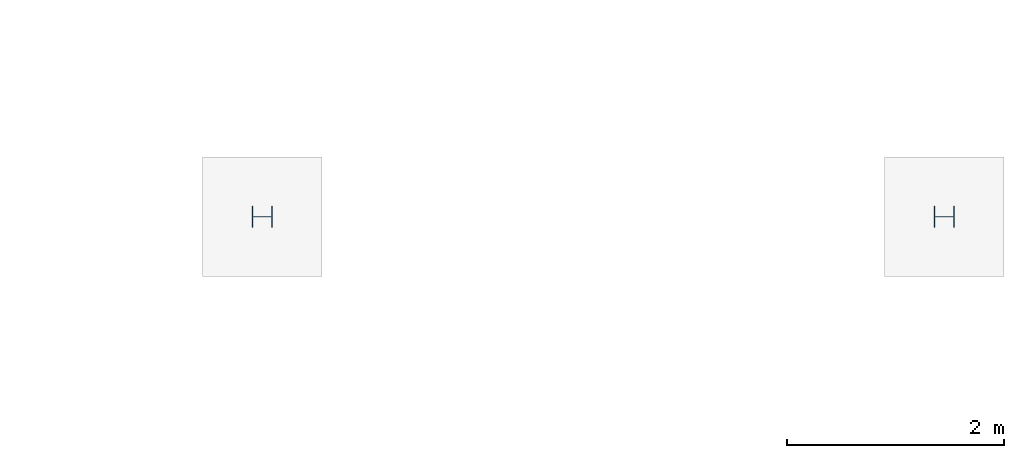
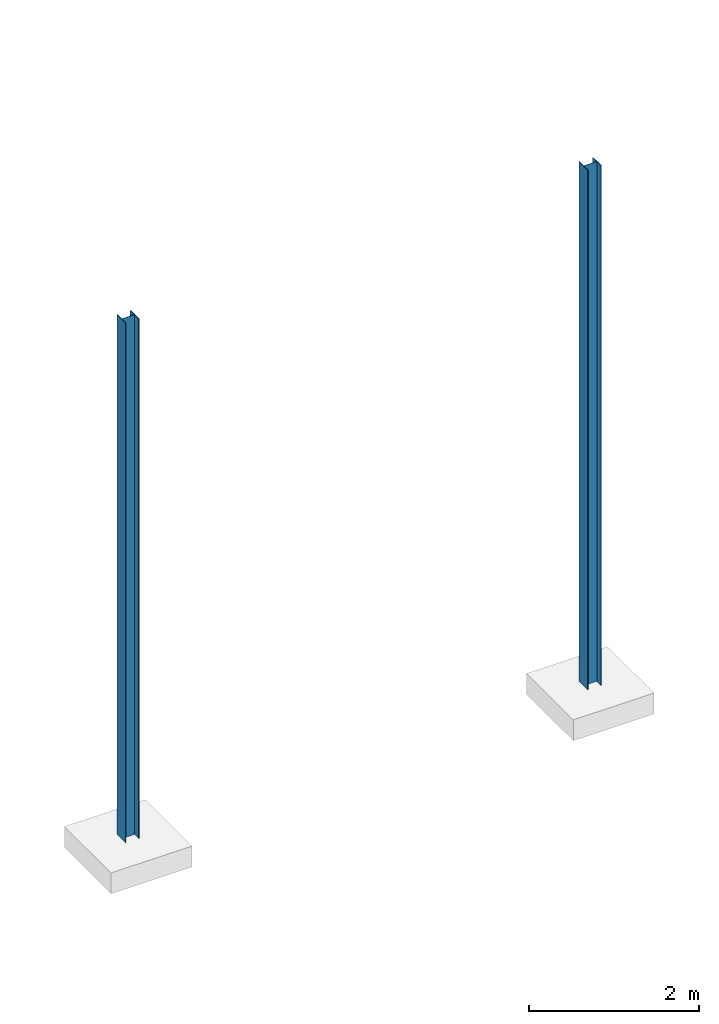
# One storey, part 38 of 59: 2 columns.
"""IFC2X3 building model written with IfcOpenShell, lengths in metres."""

from ifc_helpers import new_model, entity, si_unit, converted_unit, derived_unit, frame, origin, origin_with_axes, place, context, subcontext, project, spatial, polyline, outline, extrude, material, element, save


model = new_model("IFC2X3")

# Units and contexts
model_context = context("Model", 3, precision=1e-05, world=origin())
body_context = subcontext(model_context, "Body", "Model", "MODEL_VIEW")
ifc_project = project(units=[si_unit("LENGTHUNIT", "METRE"), si_unit("AREAUNIT", "SQUARE_METRE"), si_unit("VOLUMEUNIT", "CUBIC_METRE"), si_unit("MASSUNIT", "GRAM", prefix="KILO"), converted_unit("PLANEANGLEUNIT", "DEGREE", entity("IfcPlaneAngleMeasure", 0.0174532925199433), si_unit("PLANEANGLEUNIT", "RADIAN"), dimensions=[0, 0, 0, 0, 0, 0, 0]), derived_unit("THERMALTRANSMITTANCEUNIT", [(si_unit("POWERUNIT", "WATT"), 1), (si_unit("THERMODYNAMICTEMPERATUREUNIT", "KELVIN"), -1), (si_unit("LENGTHUNIT", "METRE"), -2)]), derived_unit("VOLUMETRICFLOWRATEUNIT", [(si_unit("LENGTHUNIT", "METRE"), 3), (converted_unit("TIMEUNIT", "hour", entity("IfcTimeMeasure", 3600.0), si_unit("TIMEUNIT", "SECOND"), dimensions=[0, 0, 1, 0, 0, 0, 0]), -1), (si_unit("LENGTHUNIT", "METRE"), -1)])], contexts=[model_context])

# Site, building, storey
site_placement = place(None, origin())
site = spatial("IfcSite", under=ifc_project, at=site_placement, Name="TWP_Speiseverteilzentrum SBW VZ II", CompositionType="ELEMENT")
building_placement = place(site_placement, origin())
building = spatial("IfcBuilding", under=site, at=building_placement, Name="Speiseverteilzentrum SBW VZ II", CompositionType="ELEMENT")
storey_placement = place(building_placement, frame((0.0, 0.0, 1.7307)))
storey = spatial("IfcBuildingStorey", under=building, at=storey_placement, Name="EG_Produktion_FFB", CompositionType="ELEMENT", Elevation=1.7307)

# Columns
ifc_material_1 = material(Name="S235")
column_1_placement = place(storey_placement, frame((118.98, 52.2000000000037, -1.95)))
element("IfcColumn", 1, at=column_1_placement, inside=storey, material=ifc_material_1, Name="Stahlstütze", context=body_context, shape_type="SweptSolid", body=[
    extrude(outline(polyline([(0.19, 0.0), (0.19, 0.2), (0.18, 0.2), (0.18, 0.10325), (0.01, 0.10325), (0.01, 0.2), (0.0, 0.2), (0.0, 0.0), (0.01, 0.0), (0.01, 0.09675), (0.18, 0.09675), (0.18, 0.0), (0.19, 0.0)])), origin_with_axes(), (0.0, 0.0, 1.0), 7.4693),
])
ifc_material_2 = material(Name="S235")
column_2_placement = place(storey_placement, frame((112.695, 52.2000000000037, -1.95)))
element("IfcColumn", 2, at=column_2_placement, inside=storey, material=ifc_material_2, Name="Stahlstütze", context=body_context, shape_type="SweptSolid", body=[
    extrude(outline(polyline([(0.19, 0.0), (0.19, 0.2), (0.18, 0.2), (0.18, 0.10325), (0.01, 0.10325), (0.01, 0.2), (0.0, 0.2), (0.0, 0.0), (0.01, 0.0), (0.01, 0.09675), (0.18, 0.09675), (0.18, 0.0), (0.19, 0.0)])), origin_with_axes(), (0.0, 0.0, 1.0), 7.4693),
])

save(model, "model.ifc")
